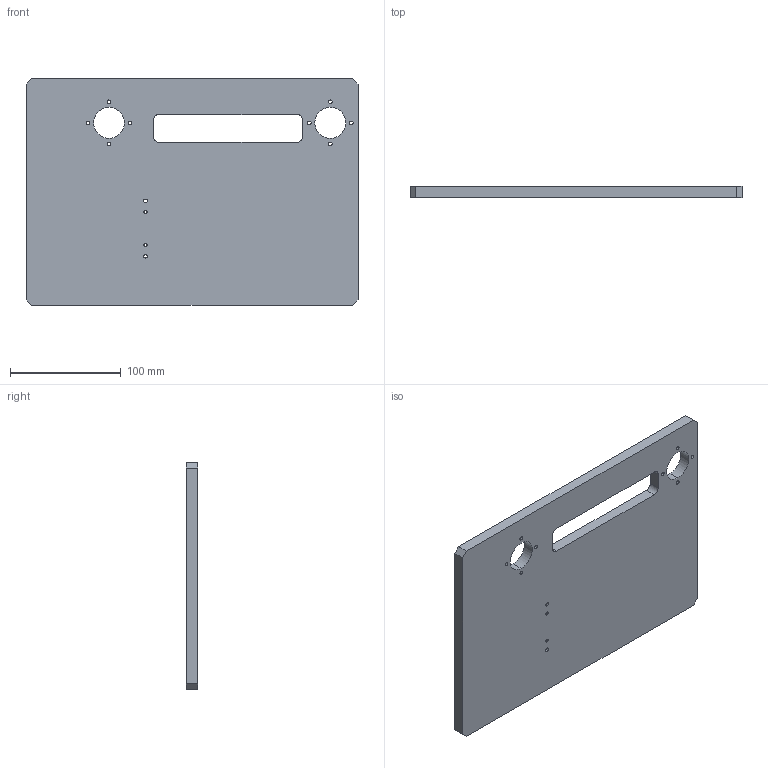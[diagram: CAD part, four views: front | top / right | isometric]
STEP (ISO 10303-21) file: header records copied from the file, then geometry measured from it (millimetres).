
FILE_DESCRIPTION (( 'STEP AP214' ), '1' );
FILE_NAME ('ベースプレート.STEP', '2024-05-17T04:42:46', ( '' ), ( '' ), 'SwSTEP 2.0', 'SolidWorks 2023', '' );
FILE_SCHEMA (( 'AUTOMOTIVE_DESIGN' ));
Length unit declared in the file: millimetre
Products named in the file (1): ベースプレート
Bounding box: 300 x 10 x 205 mm (x, y, z)
Volume: 567652.9 mm3; surface area: 129612.1 mm2
Topology: 1 solids, 1 shells, 46 faces, 132 edges, 88 vertices
Faces by surface type: cylinder 32, plane 14
Entity records: 1623 total; most frequent: DIRECTION 290, CARTESIAN_POINT 267, ORIENTED_EDGE 264, EDGE_CURVE 132, AXIS2_PLACEMENT_3D 111, VERTEX_POINT 88, EDGE_LOOP 76, LINE 68
